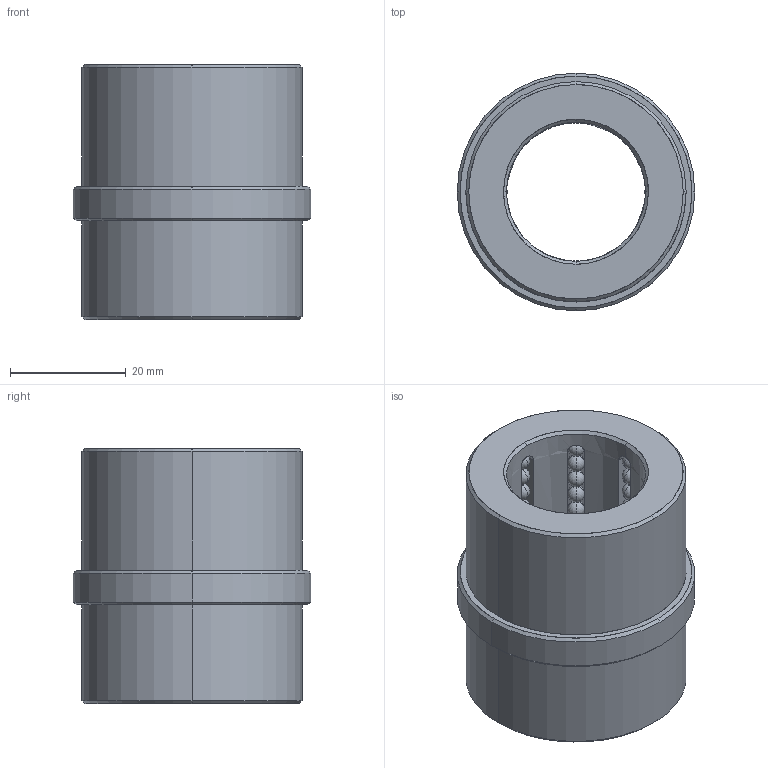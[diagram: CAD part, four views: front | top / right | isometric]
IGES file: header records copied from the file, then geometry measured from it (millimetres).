
Start section: START RECORD GO HERE.
Global section: file name: B844241727.igs; native system: DASSAULT SYSTEMES CATIA V5 R20 - www.3ds.com; preprocessor: CATIA Version 5 Release 20 ; author: Utente; organization: NB04-ASUS; date: 20200419.200716; units: millimetre
Bounding box: 41 x 41 x 44 mm (x, y, z)
Surface area: 14786.8 mm2 (no closed solid volume)
Topology: 0 solids, 0 shells, 460 faces, 1908 edges, 1140 vertices
Faces by surface type: revolution 432, plane 28
